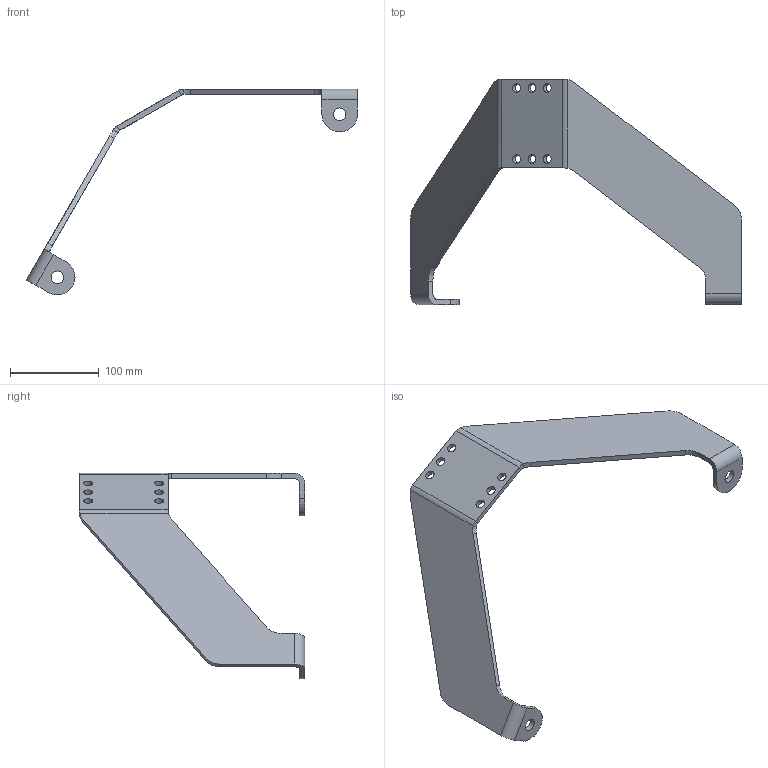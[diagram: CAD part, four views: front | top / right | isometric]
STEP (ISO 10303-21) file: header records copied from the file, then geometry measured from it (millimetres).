
FILE_DESCRIPTION(/* description */ ('FOOT FOR ALL PROFILES (1 PAIR)'),/* implementation_level */ '2;1');
FILE_NAME(/* name */ '\\carryline.intra\privat\users\mathias\Desktop\Tillfälliga filer\100-1155.stp',/* time_stamp */ '2018-11-19T09:40:54+01:00',/* author */ ('M.O'),/* organization */ (''),/* preprocessor_version */ 'ST-DEVELOPER v17',/* originating_system */ 'Autodesk Inventor 2018',/* authorisation */ '');
FILE_SCHEMA (('AUTOMOTIVE_DESIGN { 1 0 10303 214 3 1 1 }'));
Length unit declared in the file: millimetre
Products named in the file (1): 100-1155
Bounding box: 372.89 x 254 x 232.18 mm (x, y, z)
Volume: 310126.3 mm3; surface area: 114270.5 mm2
Topology: 1 solids, 1 shells, 50 faces, 140 edges, 92 vertices
Faces by surface type: cylinder 26, plane 20, bspline 4
Full cylindrical faces by diameter (mm): 10 x6, 14.2 x2
Entity records: 2351 total; most frequent: CARTESIAN_POINT 967, ORIENTED_EDGE 280, DIRECTION 278, EDGE_CURVE 140, AXIS2_PLACEMENT_3D 99, VERTEX_POINT 92, LINE 80, VECTOR 80
